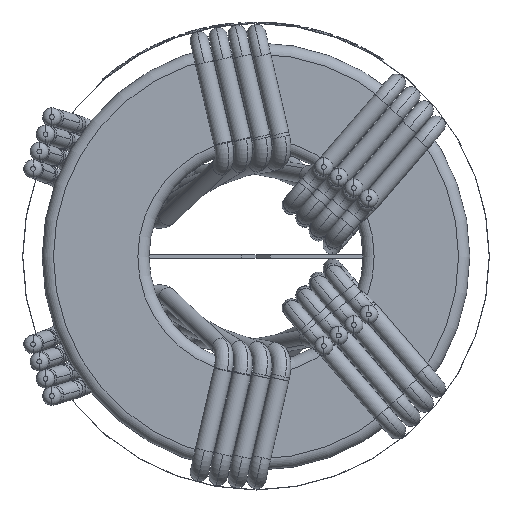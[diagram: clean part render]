
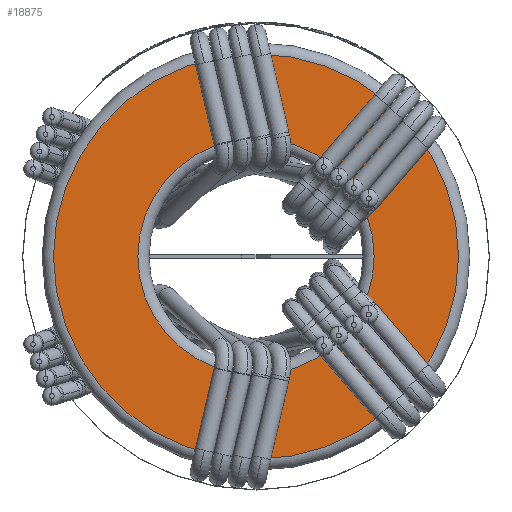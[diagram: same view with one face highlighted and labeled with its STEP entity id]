
A CAD part, front view. The second image highlights one B-rep face of the part: STEP entity #18875.
In plain terms, the highlighted planar face has unit normal (0, -1, 0).
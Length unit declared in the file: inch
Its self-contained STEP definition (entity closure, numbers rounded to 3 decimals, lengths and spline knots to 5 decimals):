
#243 = CIRCLE ( 'NONE', #18691, 0.70866 ) ;
#1335 = DIRECTION ( 'NONE',  ( 0., 0., 1. ) ) ;
#1791 = DIRECTION ( 'NONE',  ( 0., 1., 0. ) ) ;
#2559 = DIRECTION ( 'NONE',  ( 0., -1., 0. ) ) ;
#2738 = ORIENTED_EDGE ( 'NONE', *, *, #35212, .T. ) ;
#3008 = CARTESIAN_POINT ( 'NONE',  ( 0., -0.25, 0. ) ) ;
#3717 = EDGE_LOOP ( 'NONE', ( #24779, #22271 ) ) ;
#4006 = EDGE_LOOP ( 'NONE', ( #2738, #16648 ) ) ;
#4923 = CARTESIAN_POINT ( 'NONE',  ( 0., -0.25, 0.41339 ) ) ;
#7238 = DIRECTION ( 'NONE',  ( 0., 0., 1. ) ) ;
#7306 = DIRECTION ( 'NONE',  ( 0., 0., 1. ) ) ;
#8089 = VERTEX_POINT ( 'NONE', #13903 ) ;
#8587 = VERTEX_POINT ( 'NONE', #27162 ) ;
#9125 = CARTESIAN_POINT ( 'NONE',  ( 0., -0.25, 0. ) ) ;
#9338 = VERTEX_POINT ( 'NONE', #4923 ) ;
#9823 = EDGE_CURVE ( 'NONE', #9338, #24675, #35509, .T. ) ;
#10327 = FACE_BOUND ( 'NONE', #3717, .T. ) ;
#10349 = PLANE ( 'NONE',  #22607 ) ;
#12886 = FACE_OUTER_BOUND ( 'NONE', #4006, .T. ) ;
#13031 = DIRECTION ( 'NONE',  ( 0., 0., 1. ) ) ;
#13903 = CARTESIAN_POINT ( 'NONE',  ( 0., -0.25, 0.70866 ) ) ;
#16648 = ORIENTED_EDGE ( 'NONE', *, *, #24422, .T. ) ;
#18243 = CARTESIAN_POINT ( 'NONE',  ( 0., -0.25, 0. ) ) ;
#18691 = AXIS2_PLACEMENT_3D ( 'NONE', #18243, #2559, #1335 ) ;
#18875 = ADVANCED_FACE ( 'NONE', ( #10327, #12886 ), #10349, .F. ) ;
#20455 = CIRCLE ( 'NONE', #35702, 0.70866 ) ;
#20687 = CARTESIAN_POINT ( 'NONE',  ( 0., -0.25, -0.41339 ) ) ;
#22271 = ORIENTED_EDGE ( 'NONE', *, *, #38785, .T. ) ;
#22607 = AXIS2_PLACEMENT_3D ( 'NONE', #9125, #32452, #7238 ) ;
#24281 = DIRECTION ( 'NONE',  ( 0., 1., 0. ) ) ;
#24343 = AXIS2_PLACEMENT_3D ( 'NONE', #27457, #24281, #7306 ) ;
#24422 = EDGE_CURVE ( 'NONE', #8587, #8089, #243, .T. ) ;
#24675 = VERTEX_POINT ( 'NONE', #20687 ) ;
#24779 = ORIENTED_EDGE ( 'NONE', *, *, #9823, .T. ) ;
#24966 = DIRECTION ( 'NONE',  ( 0., -1., 0. ) ) ;
#26913 = CARTESIAN_POINT ( 'NONE',  ( 0., -0.25, 0. ) ) ;
#27162 = CARTESIAN_POINT ( 'NONE',  ( 0., -0.25, -0.70866 ) ) ;
#27457 = CARTESIAN_POINT ( 'NONE',  ( 0., -0.25, 0. ) ) ;
#29608 = CIRCLE ( 'NONE', #34718, 0.41339 ) ;
#30089 = DIRECTION ( 'NONE',  ( 0., 0., 1. ) ) ;
#32452 = DIRECTION ( 'NONE',  ( 0., 1., 0. ) ) ;
#34718 = AXIS2_PLACEMENT_3D ( 'NONE', #26913, #1791, #30089 ) ;
#35212 = EDGE_CURVE ( 'NONE', #8089, #8587, #20455, .T. ) ;
#35509 = CIRCLE ( 'NONE', #24343, 0.41339 ) ;
#35702 = AXIS2_PLACEMENT_3D ( 'NONE', #3008, #24966, #13031 ) ;
#38785 = EDGE_CURVE ( 'NONE', #24675, #9338, #29608, .T. ) ;
